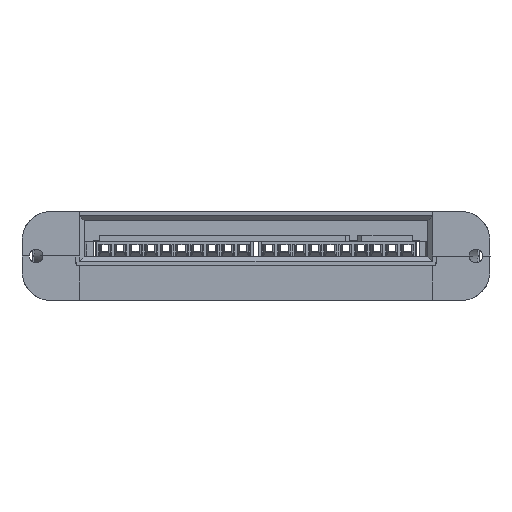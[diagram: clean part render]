
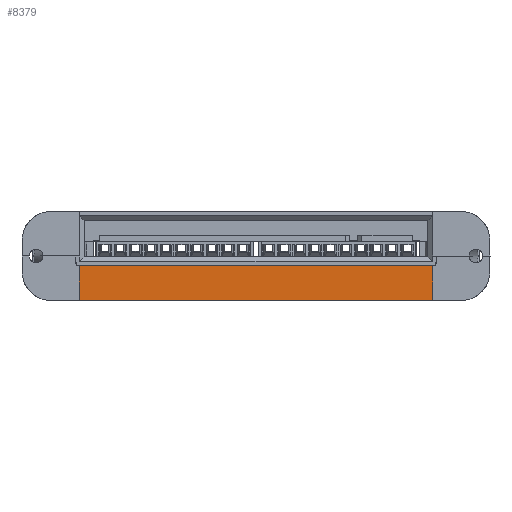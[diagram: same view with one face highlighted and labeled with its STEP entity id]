
A CAD part, left-side view. The second image highlights one B-rep face of the part: STEP entity #8379.
In plain terms, the highlighted planar face has unit normal (-1, 0, -0.018).
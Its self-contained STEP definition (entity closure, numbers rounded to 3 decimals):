
#670 = LINE ( 'NONE', #24361, #13840 ) ;
#1623 = CARTESIAN_POINT ( 'NONE',  ( -4.616, -80., 11. ) ) ;
#3035 = CARTESIAN_POINT ( 'NONE',  ( -4.616, 18.8, 11. ) ) ;
#6647 = DIRECTION ( 'NONE',  ( 0.017, 0., -1. ) ) ;
#8082 = DIRECTION ( 'NONE',  ( -0.017, 0., 1. ) ) ;
#8261 = VERTEX_POINT ( 'NONE', #35539 ) ;
#8379 = ADVANCED_FACE ( 'NONE', ( #43040 ), #46070, .T. ) ;
#9782 = DIRECTION ( 'NONE',  ( -0.017, 0., 1. ) ) ;
#9838 = CARTESIAN_POINT ( 'NONE',  ( -4.424, 18.8, 0. ) ) ;
#11423 = VERTEX_POINT ( 'NONE', #17506 ) ;
#13840 = VECTOR ( 'NONE', #64195, 1000. ) ;
#16268 = LINE ( 'NONE', #54172, #41959 ) ;
#17506 = CARTESIAN_POINT ( 'NONE',  ( -4.575, -68.8, 8.6 ) ) ;
#24361 = CARTESIAN_POINT ( 'NONE',  ( -4.424, 30., 0. ) ) ;
#24428 = ORIENTED_EDGE ( 'NONE', *, *, #57765, .T. ) ;
#27062 = LINE ( 'NONE', #34698, #51884 ) ;
#27926 = LINE ( 'NONE', #3035, #52728 ) ;
#34023 = EDGE_CURVE ( 'NONE', #11423, #49220, #27062, .T. ) ;
#34337 = ORIENTED_EDGE ( 'NONE', *, *, #63918, .T. ) ;
#34698 = CARTESIAN_POINT ( 'NONE',  ( -4.575, -80., 8.6 ) ) ;
#35539 = CARTESIAN_POINT ( 'NONE',  ( -4.424, -68.8, 0. ) ) ;
#36384 = DIRECTION ( 'NONE',  ( -1., 0., -0.017 ) ) ;
#37065 = AXIS2_PLACEMENT_3D ( 'NONE', #1623, #36384, #6647 ) ;
#38948 = ORIENTED_EDGE ( 'NONE', *, *, #34023, .T. ) ;
#39667 = DIRECTION ( 'NONE',  ( 0., 1., 0. ) ) ;
#41959 = VECTOR ( 'NONE', #9782, 1000. ) ;
#43040 = FACE_OUTER_BOUND ( 'NONE', #62212, .T. ) ;
#44483 = ORIENTED_EDGE ( 'NONE', *, *, #45241, .F. ) ;
#45241 = EDGE_CURVE ( 'NONE', #55893, #49220, #27926, .T. ) ;
#46070 = PLANE ( 'NONE',  #37065 ) ;
#49220 = VERTEX_POINT ( 'NONE', #63261 ) ;
#51884 = VECTOR ( 'NONE', #39667, 1000. ) ;
#52728 = VECTOR ( 'NONE', #8082, 1000. ) ;
#54172 = CARTESIAN_POINT ( 'NONE',  ( -4.616, -68.8, 11. ) ) ;
#55893 = VERTEX_POINT ( 'NONE', #9838 ) ;
#57765 = EDGE_CURVE ( 'NONE', #8261, #11423, #16268, .T. ) ;
#62212 = EDGE_LOOP ( 'NONE', ( #34337, #24428, #38948, #44483 ) ) ;
#63261 = CARTESIAN_POINT ( 'NONE',  ( -4.575, 18.8, 8.6 ) ) ;
#63918 = EDGE_CURVE ( 'NONE', #55893, #8261, #670, .T. ) ;
#64195 = DIRECTION ( 'NONE',  ( 0., -1., 0. ) ) ;
